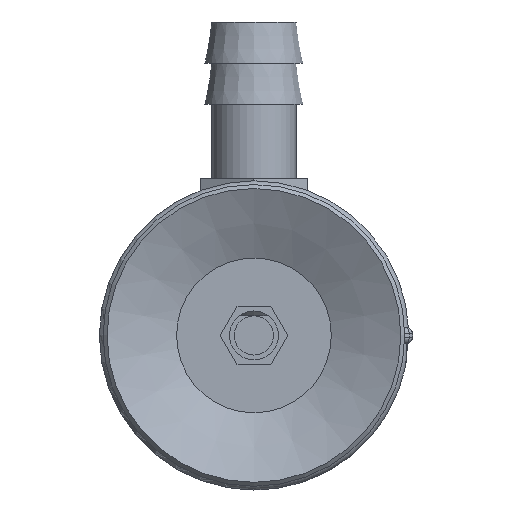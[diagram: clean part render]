
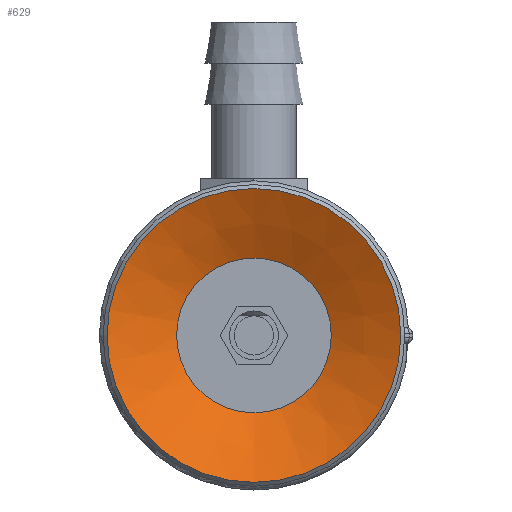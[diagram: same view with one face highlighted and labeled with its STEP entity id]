
A CAD part, front view. The second image highlights one B-rep face of the part: STEP entity #629.
In plain terms, the highlighted conical face has half-angle 64 degrees and reference radius 3.95 mm.
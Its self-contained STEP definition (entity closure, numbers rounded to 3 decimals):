
#629=ADVANCED_FACE('',(#946,#947),#948,.F.);
#946=FACE_BOUND('',#1382,.T.);
#947=FACE_OUTER_BOUND('',#1383,.T.);
#948=CONICAL_SURFACE('',#1384,3.95,1.117);
#1382=EDGE_LOOP('',(#2240));
#1383=EDGE_LOOP('',(#2241));
#1384=AXIS2_PLACEMENT_3D('',#2242,#2243,#2244);
#2240=ORIENTED_EDGE('',*,*,#2641,.F.);
#2241=ORIENTED_EDGE('',*,*,#2642,.T.);
#2242=CARTESIAN_POINT('',(0.0,-29.404,-47.168));
#2243=DIRECTION('',(-0.0,0.,1.0));
#2244=DIRECTION('',(0.0,-1.0,0.));
#2641=EDGE_CURVE('',#3048,#3048,#3049,.T.);
#2642=EDGE_CURVE('',#3050,#3050,#3051,.T.);
#3048=VERTEX_POINT('',#3870);
#3049=CIRCLE('',#3871,3.95);
#3050=VERTEX_POINT('',#3872);
#3051=CIRCLE('',#3873,7.5);
#3870=CARTESIAN_POINT('',(0.0,-33.354,-47.168));
#3871=AXIS2_PLACEMENT_3D('',#4323,#4324,#4325);
#3872=CARTESIAN_POINT('',(0.0,-36.904,-45.437));
#3873=AXIS2_PLACEMENT_3D('',#4326,#4327,#4328);
#4323=CARTESIAN_POINT('',(0.0,-29.404,-47.168));
#4324=DIRECTION('',(0.0,0.,1.0));
#4325=DIRECTION('',(0.0,-1.0,0.));
#4326=CARTESIAN_POINT('',(0.0,-29.404,-45.437));
#4327=DIRECTION('',(0.0,0.,1.0));
#4328=DIRECTION('',(0.0,-1.0,0.));
